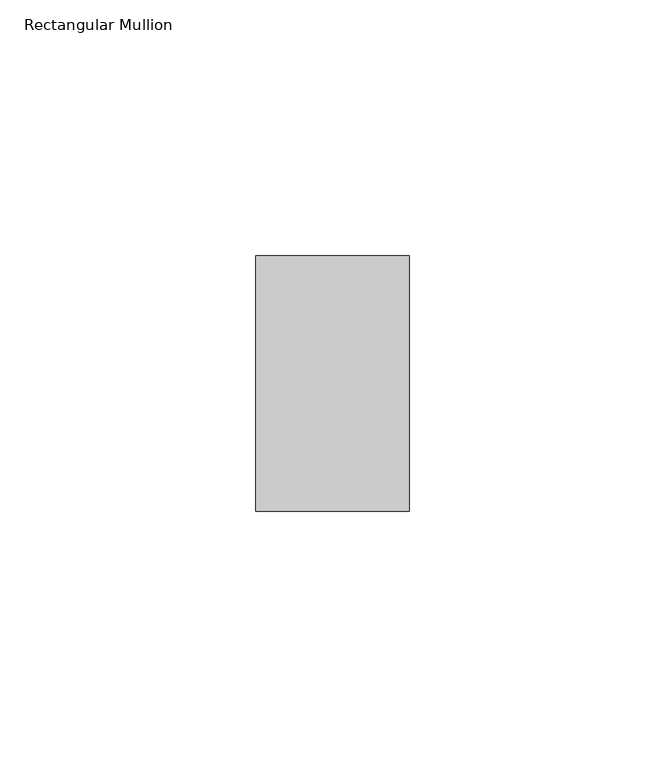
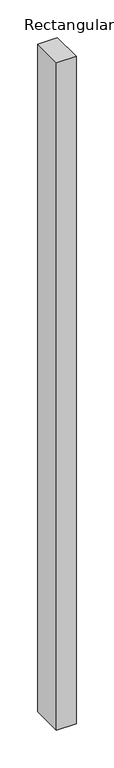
"""IFC4 building model written with IfcOpenShell, lengths in millimetres: member geometry, Rectangular Mullion : ARQ_TV_MULL_50x30mm."""

from ifc_helpers import new_model, si_unit, frame, origin, place, context, project, spatial, polyline, outline, extrude, source, transform, mapped, element, save


def rectangular_mullion_c518a510(model_context):
    return source(origin(), model_context, "Body", "SweptSolid", [
        extrude(outline(polyline([(0.0, 25.0), (0.0, -25.0), (-30.0, -25.0), (-30.0, 25.0), (0.0, 25.0)])), frame((0.0, 0.0, -1082.6872549), z_axis=(0.0, 0.0, 1.0), x_axis=(1.0, 0.0, 0.0)), (0.0, 0.0, 1.0), 1082.6872549),
    ])


if __name__ == "__main__":
    model = new_model("IFC4")
    model_context = context("Model", 3, world=origin())
    ifc_project = project(units=[si_unit("LENGTHUNIT", "METRE", prefix="MILLI")], contexts=[model_context])
    site = spatial("IfcSite", under=ifc_project)
    building = spatial("IfcBuilding", under=site)
    placement = place(None, origin())
    rectangular_mullion_shape = rectangular_mullion_c518a510(model_context)
    element("IfcMember", 1, ObjectType="Rectangular Mullion : ARQ_TV_MULL_50x30mm", at=placement, inside=building, context=model_context, shape_type="MappedRepresentation", body=[
        mapped(rectangular_mullion_shape, transform((0.0, 0.0, 0.0), x_axis=(1.0, 0.0, 0.0), y_axis=(0.0, 1.0, 0.0), z_axis=(0.0, 0.0, 1.0))),
    ])
    save(model, "model.ifc")
